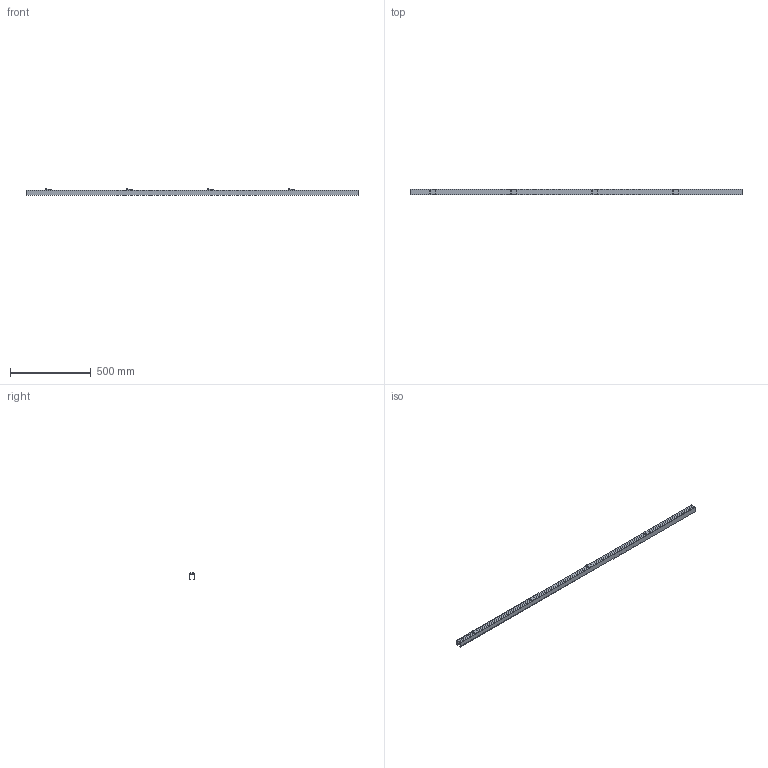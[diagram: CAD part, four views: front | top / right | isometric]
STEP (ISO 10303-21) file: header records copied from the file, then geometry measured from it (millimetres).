
FILE_DESCRIPTION(('STEP AP242'),'1');
FILE_NAME('OPO_65.081.62_volu_3d.stp','2026-01-30T20:51:10',(' '),(' '),'Spatial InterOp 3D',' ',' ');
FILE_SCHEMA(('AP242_MANAGED_MODEL_BASED_3D_ENGINEERING_MIM_LF {1 0 10303 442 1 1 4}'));
Length unit declared in the file: millimetre
Products named in the file (1): 1
Bounding box: 2050 x 33 x 43 mm (x, y, z)
Volume: 602226.4 mm3; surface area: 481180.4 mm2
Topology: 1 solids, 1 shells, 128 faces, 344 edges, 226 vertices
Faces by surface type: plane 108, cylinder 20
Entity records: 4988 total; most frequent: CARTESIAN_POINT 699, ORIENTED_EDGE 688, DIRECTION 642, EDGE_CURVE 344, LINE 304, VECTOR 304, VERTEX_POINT 226, AXIS2_PLACEMENT_3D 169
